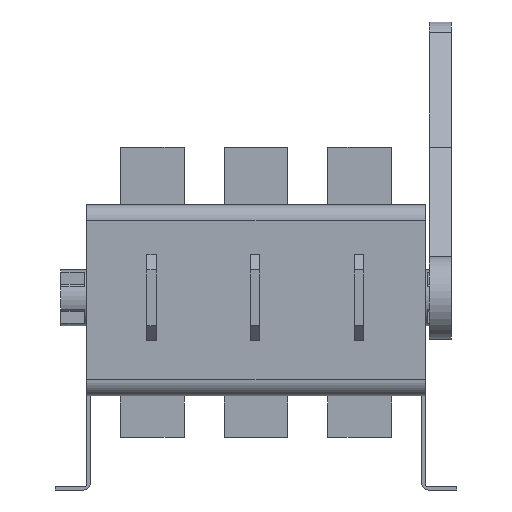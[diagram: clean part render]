
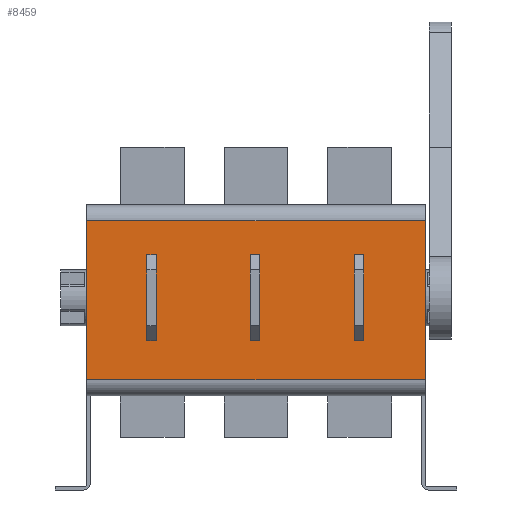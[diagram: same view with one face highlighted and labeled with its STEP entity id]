
A CAD part, front view. The second image highlights one B-rep face of the part: STEP entity #8459.
In plain terms, the highlighted planar face has unit normal (0, -1, 0).
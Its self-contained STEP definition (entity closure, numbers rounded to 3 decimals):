
#21 = EDGE_CURVE ( 'NONE', #3682, #7138, #8069, .T. ) ;
#71 = VERTEX_POINT ( 'NONE', #453 ) ;
#453 = CARTESIAN_POINT ( 'NONE',  ( -106., -114., -110. ) ) ;
#462 = AXIS2_PLACEMENT_3D ( 'NONE', #3840, #2496, #7071 ) ;
#543 = DIRECTION ( 'NONE',  ( 1., 0., 0. ) ) ;
#715 = VECTOR ( 'NONE', #8460, 1000. ) ;
#832 = ORIENTED_EDGE ( 'NONE', *, *, #7496, .T. ) ;
#1291 = DIRECTION ( 'NONE',  ( 0., 0., 1. ) ) ;
#1372 = FACE_OUTER_BOUND ( 'NONE', #4849, .T. ) ;
#2496 = DIRECTION ( 'NONE',  ( 0., -1., 0. ) ) ;
#2587 = EDGE_CURVE ( 'NONE', #2711, #3682, #8437, .T. ) ;
#2612 = ORIENTED_EDGE ( 'NONE', *, *, #21, .T. ) ;
#2655 = VECTOR ( 'NONE', #7659, 1000. ) ;
#2711 = VERTEX_POINT ( 'NONE', #7357 ) ;
#2861 = LINE ( 'NONE', #7228, #715 ) ;
#2999 = CARTESIAN_POINT ( 'NONE',  ( -106., -114., -10. ) ) ;
#3293 = CARTESIAN_POINT ( 'NONE',  ( 106., -114., -120. ) ) ;
#3682 = VERTEX_POINT ( 'NONE', #3909 ) ;
#3840 = CARTESIAN_POINT ( 'NONE',  ( -106., -114., -120. ) ) ;
#3909 = CARTESIAN_POINT ( 'NONE',  ( 106., -114., -10. ) ) ;
#4849 = EDGE_LOOP ( 'NONE', ( #5920, #832, #7127, #2612 ) ) ;
#4890 = EDGE_CURVE ( 'NONE', #71, #7138, #2861, .T. ) ;
#5920 = ORIENTED_EDGE ( 'NONE', *, *, #4890, .F. ) ;
#5929 = VECTOR ( 'NONE', #1291, 1000. ) ;
#6103 = LINE ( 'NONE', #8320, #8318 ) ;
#6675 = CARTESIAN_POINT ( 'NONE',  ( -106., -114., -10. ) ) ;
#7071 = DIRECTION ( 'NONE',  ( 0., 0., -1. ) ) ;
#7127 = ORIENTED_EDGE ( 'NONE', *, *, #2587, .T. ) ;
#7138 = VERTEX_POINT ( 'NONE', #6675 ) ;
#7228 = CARTESIAN_POINT ( 'NONE',  ( -106., -114., -120. ) ) ;
#7357 = CARTESIAN_POINT ( 'NONE',  ( 106., -114., -110. ) ) ;
#7496 = EDGE_CURVE ( 'NONE', #71, #2711, #6103, .T. ) ;
#7659 = DIRECTION ( 'NONE',  ( -1., 0., 0. ) ) ;
#7757 = PLANE ( 'NONE',  #462 ) ;
#8069 = LINE ( 'NONE', #2999, #2655 ) ;
#8318 = VECTOR ( 'NONE', #543, 1000. ) ;
#8320 = CARTESIAN_POINT ( 'NONE',  ( 106., -114., -110. ) ) ;
#8437 = LINE ( 'NONE', #3293, #5929 ) ;
#8459 = ADVANCED_FACE ( 'NONE', ( #1372 ), #7757, .T. ) ;
#8460 = DIRECTION ( 'NONE',  ( 0., 0., 1. ) ) ;
